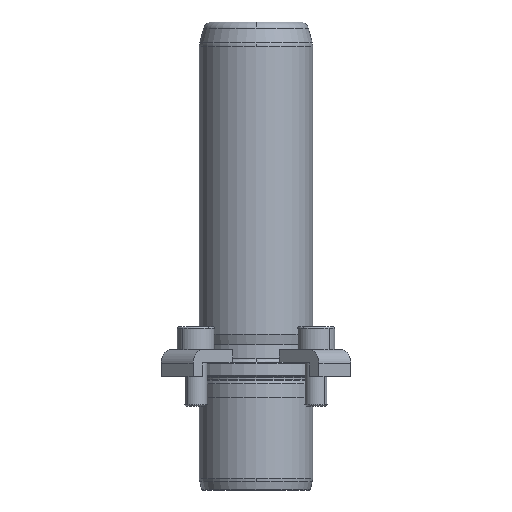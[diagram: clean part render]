
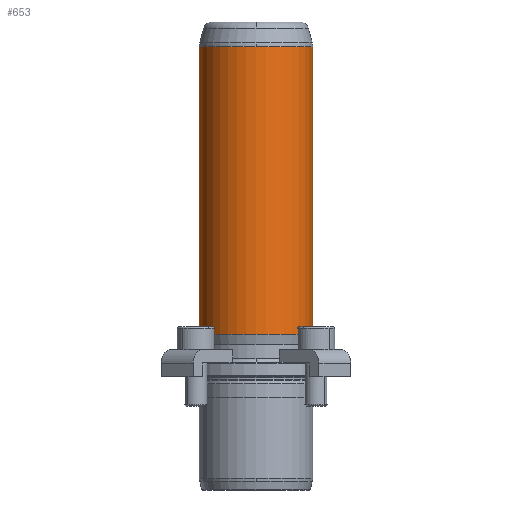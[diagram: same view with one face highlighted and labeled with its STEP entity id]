
A CAD part, front view. The second image highlights one B-rep face of the part: STEP entity #653.
In plain terms, the highlighted cylindrical face has radius 20 mm (diameter 40 mm), a partial arc.
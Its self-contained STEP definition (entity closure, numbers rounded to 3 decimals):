
#566=CARTESIAN_POINT('',(0.0,-20.,116.342));
#567=VERTEX_POINT('',#566);
#594=CARTESIAN_POINT('',(-20.0,0.,116.342));
#595=VERTEX_POINT('',#594);
#603=CARTESIAN_POINT('',(0.0,0.,116.342));
#604=DIRECTION('',(0.0,0.0,1.0));
#605=DIRECTION('',(1.0,0.0,0.0));
#606=AXIS2_PLACEMENT_3D('',#603,#604,#605);
#607=CIRCLE('',#606,20.);
#608=EDGE_CURVE('',#595,#567,#607,.T.);
#613=CARTESIAN_POINT('',(0.0,0.,65.671));
#614=DIRECTION('',(0.0,0.,1.0));
#615=DIRECTION('',(1.0,0.0,0.0));
#616=AXIS2_PLACEMENT_3D('',#613,#614,#615);
#617=CYLINDRICAL_SURFACE('',#616,20.0);
#618=CARTESIAN_POINT('',(20.,0.,116.342));
#619=VERTEX_POINT('',#618);
#620=CARTESIAN_POINT('',(20.0,0.,15.0));
#621=VERTEX_POINT('',#620);
#622=CARTESIAN_POINT('',(20.,0.,116.342));
#623=DIRECTION('',(0.0,0.0,-1.0));
#624=VECTOR('',#623,101.342);
#625=LINE('',#622,#624);
#626=EDGE_CURVE('',#619,#621,#625,.T.);
#627=ORIENTED_EDGE('',*,*,#626,.F.);
#628=CARTESIAN_POINT('',(0.0,0.,116.342));
#629=DIRECTION('',(0.0,0.0,1.0));
#630=DIRECTION('',(1.0,0.0,0.0));
#631=AXIS2_PLACEMENT_3D('',#628,#629,#630);
#632=CIRCLE('',#631,20.);
#633=EDGE_CURVE('',#567,#619,#632,.T.);
#634=ORIENTED_EDGE('',*,*,#633,.F.);
#635=ORIENTED_EDGE('',*,*,#608,.F.);
#636=CARTESIAN_POINT('',(-20.0,0.,15.0));
#637=VERTEX_POINT('',#636);
#638=CARTESIAN_POINT('',(-20.0,0.,116.342));
#639=DIRECTION('',(0.0,0.0,-1.0));
#640=VECTOR('',#639,101.342);
#641=LINE('',#638,#640);
#642=EDGE_CURVE('',#595,#637,#641,.T.);
#643=ORIENTED_EDGE('',*,*,#642,.T.);
#644=CARTESIAN_POINT('',(0.0,0.,15.0));
#645=DIRECTION('',(0.0,0.0,1.0));
#646=DIRECTION('',(1.0,0.0,0.0));
#647=AXIS2_PLACEMENT_3D('',#644,#645,#646);
#648=CIRCLE('',#647,20.0);
#649=EDGE_CURVE('',#637,#621,#648,.T.);
#650=ORIENTED_EDGE('',*,*,#649,.T.);
#651=EDGE_LOOP('',(#627,#634,#635,#643,#650));
#652=FACE_OUTER_BOUND('',#651,.T.);
#653=ADVANCED_FACE('',(#652),#617,.T.);
